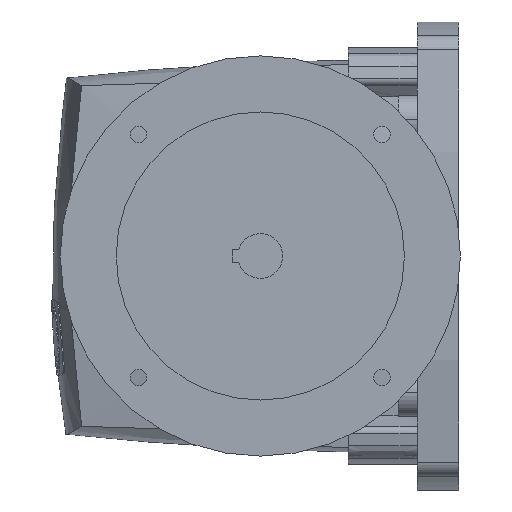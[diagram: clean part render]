
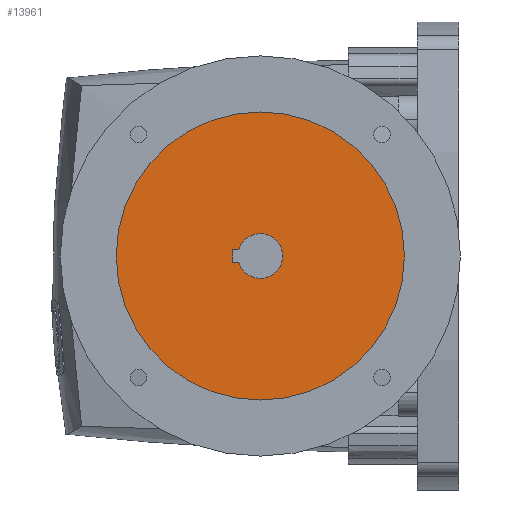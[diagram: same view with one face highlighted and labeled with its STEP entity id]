
A CAD part, left-side view. The second image highlights one B-rep face of the part: STEP entity #13961.
In plain terms, the highlighted planar face has unit normal (-1, 0, 0).
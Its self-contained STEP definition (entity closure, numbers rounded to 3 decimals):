
#4339=CARTESIAN_POINT('',(-164.,124.,0.));
#4340=DIRECTION('',(-1.,0.,0.));
#4341=DIRECTION('',(0.,-1.,0.));
#4342=AXIS2_PLACEMENT_3D('',#4339,#4340,#4341);
#4344=CARTESIAN_POINT('',(-164.,124.,0.));
#4345=DIRECTION('',(-1.,0.,0.));
#4346=DIRECTION('',(0.,1.,0.));
#4347=AXIS2_PLACEMENT_3D('',#4344,#4345,#4346);
#4349=DIRECTION('',(0.,1.,0.));
#4350=VECTOR('',#4349,3.884);
#4351=CARTESIAN_POINT('',(-164.,137.416,4.));
#4352=LINE('',#4351,#4350);
#4353=DIRECTION('',(0.,0.,-1.));
#4354=VECTOR('',#4353,8.);
#4355=CARTESIAN_POINT('',(-164.,141.3,4.));
#4356=LINE('',#4355,#4354);
#4357=DIRECTION('',(0.,-1.,0.));
#4358=VECTOR('',#4357,3.884);
#4359=CARTESIAN_POINT('',(-164.,141.3,-4.));
#4360=LINE('',#4359,#4358);
#4361=CARTESIAN_POINT('',(-164.,124.,0.));
#4362=DIRECTION('',(-1.,0.,0.));
#4363=DIRECTION('',(0.,0.958,-0.286));
#4364=AXIS2_PLACEMENT_3D('',#4361,#4362,#4363);
#8680=CARTESIAN_POINT('',(-164.,137.416,4.));
#8681=VERTEX_POINT('',#8680);
#8682=CARTESIAN_POINT('',(-164.,141.3,4.));
#8683=VERTEX_POINT('',#8682);
#8684=CARTESIAN_POINT('',(-164.,141.3,-4.));
#8685=VERTEX_POINT('',#8684);
#8686=CARTESIAN_POINT('',(-164.,137.416,-4.));
#8687=VERTEX_POINT('',#8686);
#8930=CARTESIAN_POINT('',(-164.,34.012,0.));
#8931=CARTESIAN_POINT('',(-164.,213.988,0.));
#8932=VERTEX_POINT('',#8930);
#8933=VERTEX_POINT('',#8931);
#13942=CARTESIAN_POINT('',(-164.,0.,0.));
#13943=DIRECTION('',(-1.,0.,0.));
#13944=DIRECTION('',(0.,-1.,0.));
#13945=AXIS2_PLACEMENT_3D('',#13942,#13943,#13944);
#13946=PLANE('',#13945);
#13947=ORIENTED_EDGE('',*,*,#13911,.F.);
#13948=ORIENTED_EDGE('',*,*,#13932,.F.);
#13949=EDGE_LOOP('',(#13947,#13948));
#13950=FACE_OUTER_BOUND('',#13949,.F.);
#13952=ORIENTED_EDGE('',*,*,#13951,.T.);
#13954=ORIENTED_EDGE('',*,*,#13953,.T.);
#13956=ORIENTED_EDGE('',*,*,#13955,.T.);
#13958=ORIENTED_EDGE('',*,*,#13957,.T.);
#13959=EDGE_LOOP('',(#13952,#13954,#13956,#13958));
#13960=FACE_BOUND('',#13959,.F.);
#13961=ADVANCED_FACE('',(#13950,#13960),#13946,.T.);
#4343=CIRCLE('',#4342,89.988);
#4348=CIRCLE('',#4347,89.988);
#4365=CIRCLE('',#4364,14.);
#13911=EDGE_CURVE('',#8932,#8933,#4343,.T.);
#13932=EDGE_CURVE('',#8933,#8932,#4348,.T.);
#13951=EDGE_CURVE('',#8681,#8683,#4352,.T.);
#13953=EDGE_CURVE('',#8683,#8685,#4356,.T.);
#13955=EDGE_CURVE('',#8685,#8687,#4360,.T.);
#13957=EDGE_CURVE('',#8687,#8681,#4365,.T.);
